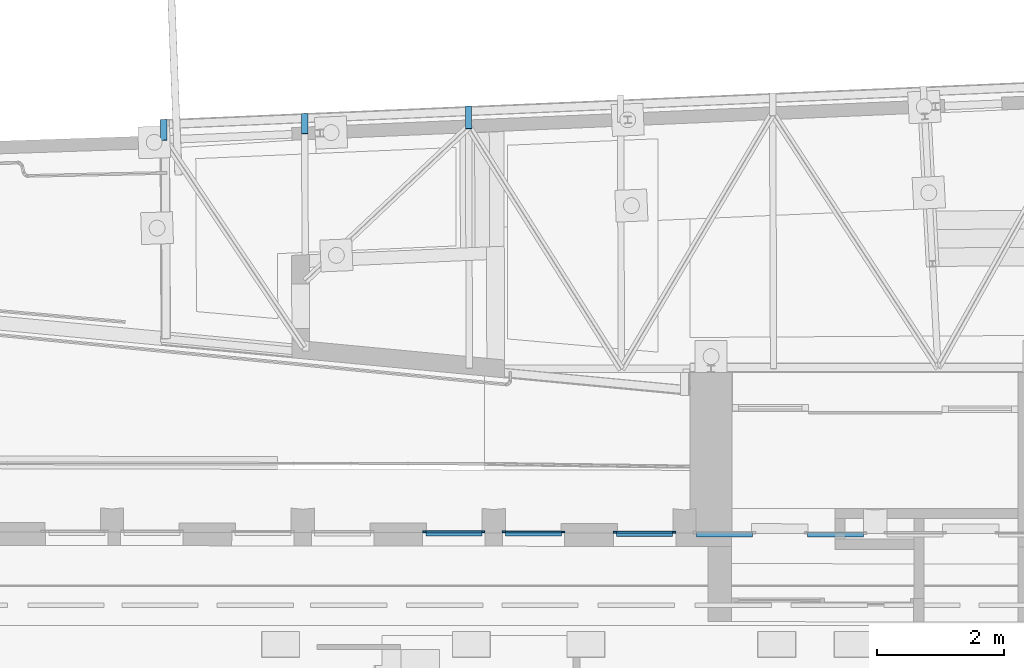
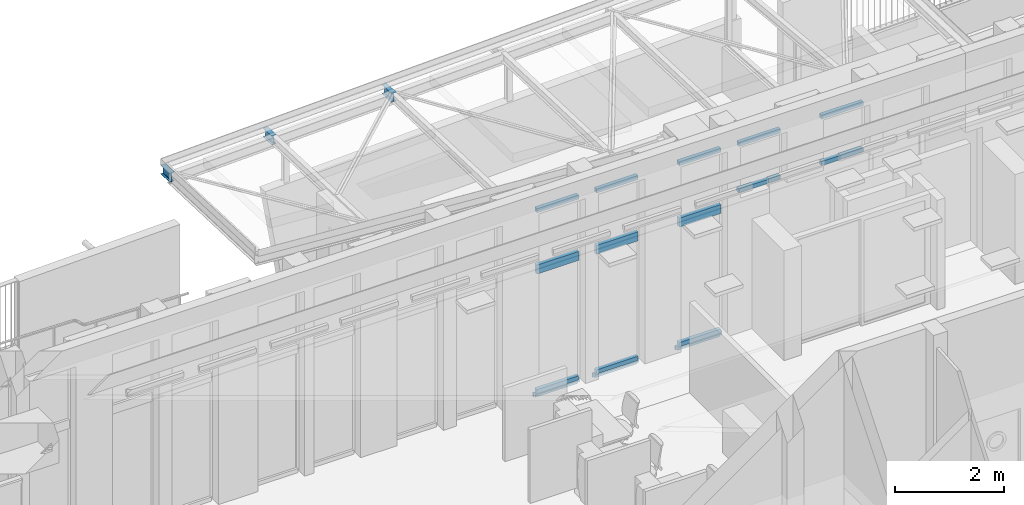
# One storey, part 17 of 128: 25 members, 3 beams, 8 elements without a shape of their own.
"""IFC2X3 building model written with IfcOpenShell, lengths in metres."""

from ifc_helpers import new_model, entity, si_unit, converted_unit, derived_unit, direction, frame, frame_2d, origin, origin_2d_with_axis, place, context, subcontext, project, spatial, rectangle, i_section, extrude, source, transform, mapped, material, type_object, type_shapes, element, aggregate, save


model = new_model("IFC2X3")

# Units and contexts
model_context = context("Model", 3, precision=1e-05, world=origin(), true_north=direction((6.123031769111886e-17, 1.0)))
body_context = subcontext(model_context, "Body", "Model", "MODEL_VIEW")
ifc_project = project(units=[si_unit("LENGTHUNIT", "METRE"), si_unit("AREAUNIT", "SQUARE_METRE"), converted_unit("PLANEANGLEUNIT", "DEGREE", entity("IfcPlaneAngleMeasure", 0.017453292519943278), si_unit("PLANEANGLEUNIT", "RADIAN"), dimensions=[0, 0, 0, 0, 0, 0, 0]), derived_unit("THERMALTRANSMITTANCEUNIT", [(si_unit("MASSUNIT", "GRAM", prefix="KILO"), 1), (si_unit("THERMODYNAMICTEMPERATUREUNIT", "KELVIN"), -1), (si_unit("TIMEUNIT", "SECOND"), -3)])], contexts=[model_context])

# Site, building, storey
site_placement = place(None, origin())
site = spatial("IfcSite", under=ifc_project, at=site_placement, Name="Default", CompositionType="ELEMENT")
building_placement = place(site_placement, origin())
building = spatial("IfcBuilding", under=site, at=building_placement, CompositionType="ELEMENT")
storey_placement = place(building_placement, origin())
storey = spatial("IfcBuildingStorey", under=building, at=storey_placement, Name="00_RDC CAF", CompositionType="ELEMENT", Elevation=2.4982504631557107e-13)

# Curtain wall, member
curtain_wall_type_1 = type_object("IfcCurtainWallType", Name="Mur-rideau:FRi.Ext.30mm RDC", PredefinedType="NOTDEFINED")
curtain_wall_1_placement = place(storey_placement, origin())
curtain_wall_1 = element("IfcCurtainWall", 1, at=curtain_wall_1_placement, inside=storey, type_object=curtain_wall_type_1, Name="Mur-rideau:FRi.Ext.30mm RDC", ObjectType="Mur-rideau:FRi.Ext.30mm RDC")
ifc_material_1 = material(Name="ARC - M.Ex - Blanc")
member_type_1 = type_object("IfcMemberType", Name="Meneau rectangulaire:F.Ri.M_Ext_Rectangulaire_200x80mm", PredefinedType="MULLION", material=ifc_material_1)
shared_shape_1 = source(origin(), body_context, "Body", "SweptSolid", [
    extrude(rectangle(XDim=0.2, YDim=0.07999999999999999, at=origin_2d_with_axis()), frame((0.0, 0.025, -0.8799999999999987), z_axis=(0.0, 0.0, 1.0), x_axis=(-1.0, 0.0, 0.0)), (0.0, 0.0, 1.0), 0.8799999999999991),
])
type_shapes(member_type_1, [shared_shape_1])
member_1_placement = place(curtain_wall_1_placement, frame((21.562391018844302, 144.16026276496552, 2.7689999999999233), z_axis=(1.0, 0.0, 0.0), x_axis=(0.0, 0.0, 1.0)))
member_1 = element("IfcMember", 2, at=member_1_placement, type_object=member_type_1, material=ifc_material_1, Name="Meneau rectangulaire:F.Ri.M_Ext_Rectangulaire_200x80mm", ObjectType="Meneau rectangulaire:F.Ri.M_Ext_Rectangulaire_200x80mm", context=body_context, shape_type="MappedRepresentation", body=[
    mapped(shared_shape_1, transform((0.0, 0.0, 0.0), scale=1.0)),
])

curtain_wall_2_placement = place(storey_placement, origin())
curtain_wall_2 = element("IfcCurtainWall", 3, at=curtain_wall_2_placement, inside=storey, type_object=curtain_wall_type_1, Name="Mur-rideau:FRi.Ext.30mm RDC", ObjectType="Mur-rideau:FRi.Ext.30mm RDC")
member_2_placement = place(curtain_wall_2_placement, frame((22.816012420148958, 144.1582912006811, 2.7689999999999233), z_axis=(1.0, 0.0, 0.0), x_axis=(0.0, 0.0, 1.0)))
member_2 = element("IfcMember", 4, at=member_2_placement, type_object=member_type_1, material=ifc_material_1, Name="Meneau rectangulaire:F.Ri.M_Ext_Rectangulaire_200x80mm", ObjectType="Meneau rectangulaire:F.Ri.M_Ext_Rectangulaire_200x80mm", context=body_context, shape_type="MappedRepresentation", body=[
    mapped(shared_shape_1, transform((0.0, 0.0, 0.0), scale=1.0)),
])

curtain_wall_3_placement = place(storey_placement, origin())
curtain_wall_3 = element("IfcCurtainWall", 5, at=curtain_wall_3_placement, inside=storey, type_object=curtain_wall_type_1, Name="Mur-rideau:FRi.Ext.30mm RDC", ObjectType="Mur-rideau:FRi.Ext.30mm RDC")
member_3_placement = place(curtain_wall_3_placement, frame((24.56238438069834, 144.15554468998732, 2.7689999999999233), z_axis=(1.0, 0.0, 0.0), x_axis=(0.0, 0.0, 1.0)))
member_3 = element("IfcMember", 6, at=member_3_placement, type_object=member_type_1, material=ifc_material_1, Name="Meneau rectangulaire:F.Ri.M_Ext_Rectangulaire_200x80mm", ObjectType="Meneau rectangulaire:F.Ri.M_Ext_Rectangulaire_200x80mm", context=body_context, shape_type="MappedRepresentation", body=[
    mapped(shared_shape_1, transform((0.0, 0.0, 0.0), scale=1.0)),
])

# Member
member_type_2 = type_object("IfcMemberType", Name="Meneau rectangulaire:F.Ri.M_Ext_Rectangulaire_90x80mm", PredefinedType="MULLION", material=ifc_material_1)
shared_shape_2 = source(origin(), body_context, "Body", "SweptSolid", [
    extrude(rectangle(XDim=0.09, YDim=0.07999999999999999, at=origin_2d_with_axis()), frame((-0.045, 0.025, -0.8799999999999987), z_axis=(0.0, 0.0, 1.0), x_axis=(-1.0, 0.0, 0.0)), (0.0, 0.0, 1.0), 0.8799999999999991),
])
type_shapes(member_type_2, [shared_shape_2])
member_4_placement = place(curtain_wall_1_placement, frame((21.562391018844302, 144.16026276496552, 4.127999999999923), z_axis=(1.0, 0.0, 0.0), x_axis=(0.0, 0.0, 1.0)))
member_4 = element("IfcMember", 7, at=member_4_placement, type_object=member_type_2, material=ifc_material_1, Name="Meneau rectangulaire:F.Ri.M_Ext_Rectangulaire_90x80mm", ObjectType="Meneau rectangulaire:F.Ri.M_Ext_Rectangulaire_90x80mm", context=body_context, shape_type="MappedRepresentation", body=[
    mapped(shared_shape_2, transform((0.0, 0.0, 0.0), scale=1.0)),
])

member_5_placement = place(curtain_wall_2_placement, frame((22.816012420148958, 144.1582912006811, 4.127999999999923), z_axis=(1.0, 0.0, 0.0), x_axis=(0.0, 0.0, 1.0)))
member_5 = element("IfcMember", 8, at=member_5_placement, type_object=member_type_2, material=ifc_material_1, Name="Meneau rectangulaire:F.Ri.M_Ext_Rectangulaire_90x80mm", ObjectType="Meneau rectangulaire:F.Ri.M_Ext_Rectangulaire_90x80mm", context=body_context, shape_type="MappedRepresentation", body=[
    mapped(shared_shape_2, transform((0.0, 0.0, 0.0), scale=1.0)),
])

member_6_placement = place(curtain_wall_3_placement, frame((24.56238438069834, 144.15554468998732, 4.127999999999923), z_axis=(1.0, 0.0, 0.0), x_axis=(0.0, 0.0, 1.0)))
member_6 = element("IfcMember", 9, at=member_6_placement, type_object=member_type_2, material=ifc_material_1, Name="Meneau rectangulaire:F.Ri.M_Ext_Rectangulaire_90x80mm", ObjectType="Meneau rectangulaire:F.Ri.M_Ext_Rectangulaire_90x80mm", context=body_context, shape_type="MappedRepresentation", body=[
    mapped(shared_shape_2, transform((0.0, 0.0, 0.0), scale=1.0)),
])

# Curtain wall, member
curtain_wall_4_placement = place(storey_placement, origin())
curtain_wall_4 = element("IfcCurtainWall", 10, at=curtain_wall_4_placement, inside=storey, type_object=curtain_wall_type_1, Name="Mur-rideau:FRi.Ext.30mm RDC", ObjectType="Mur-rideau:FRi.Ext.30mm RDC")
member_7_placement = place(curtain_wall_4_placement, frame((25.816005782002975, 144.1441369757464, 4.127999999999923), z_axis=(1.0, 0.0, 0.0), x_axis=(0.0, 0.0, 1.0)))
member_7 = element("IfcMember", 11, at=member_7_placement, type_object=member_type_2, material=ifc_material_1, Name="Meneau rectangulaire:F.Ri.M_Ext_Rectangulaire_90x80mm", ObjectType="Meneau rectangulaire:F.Ri.M_Ext_Rectangulaire_90x80mm", context=body_context, shape_type="MappedRepresentation", body=[
    mapped(shared_shape_2, transform((0.0, 0.0, 0.0), scale=1.0)),
])

curtain_wall_5_placement = place(storey_placement, origin())
curtain_wall_5 = element("IfcCurtainWall", 12, at=curtain_wall_5_placement, inside=storey, type_object=curtain_wall_type_1, Name="Mur-rideau:FRi.Ext.30mm RDC", ObjectType="Mur-rideau:FRi.Ext.30mm RDC")
member_8_placement = place(curtain_wall_5_placement, frame((27.56237774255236, 144.14139046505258, 4.127999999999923), z_axis=(1.0, 0.0, 0.0), x_axis=(0.0, 0.0, 1.0)))
member_8 = element("IfcMember", 13, at=member_8_placement, type_object=member_type_2, material=ifc_material_1, Name="Meneau rectangulaire:F.Ri.M_Ext_Rectangulaire_90x80mm", ObjectType="Meneau rectangulaire:F.Ri.M_Ext_Rectangulaire_90x80mm", context=body_context, shape_type="MappedRepresentation", body=[
    mapped(shared_shape_2, transform((0.0, 0.0, 0.0), scale=1.0)),
])

# Member
member_type_3 = type_object("IfcMemberType", Name="Meneau rectangulaire:F.Ri.M_Ext_Rectangulaire_90x80mm", PredefinedType="MULLION", material=ifc_material_1)
shared_shape_3 = source(origin(), body_context, "Body", "SweptSolid", [
    extrude(rectangle(XDim=0.09, YDim=0.07999999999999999, at=origin_2d_with_axis()), frame((-0.045, 0.025, -0.8799999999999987), z_axis=(0.0, 0.0, 1.0), x_axis=(-1.0, 0.0, 0.0)), (0.0, 0.0, 1.0), 0.8799999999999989),
])
type_shapes(member_type_3, [shared_shape_3])
member_9_placement = place(curtain_wall_1_placement, frame((20.682392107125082, 144.1616467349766, 0.0), z_axis=(-1.0, 0.0, 0.0), x_axis=(0.0, 0.0, -1.0)))
member_9 = element("IfcMember", 14, at=member_9_placement, type_object=member_type_3, material=ifc_material_1, Name="Meneau rectangulaire:F.Ri.M_Ext_Rectangulaire_90x80mm", ObjectType="Meneau rectangulaire:F.Ri.M_Ext_Rectangulaire_90x80mm", context=body_context, shape_type="MappedRepresentation", body=[
    mapped(shared_shape_3, transform((0.0, 0.0, 0.0), scale=1.0)),
])

aggregate(curtain_wall_1, [member_1, member_4, member_9])

member_10_placement = place(curtain_wall_2_placement, frame((21.936013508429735, 144.15967517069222, 0.0), z_axis=(-1.0, 0.0, 0.0), x_axis=(0.0, 0.0, -1.0)))
member_10 = element("IfcMember", 15, at=member_10_placement, type_object=member_type_3, material=ifc_material_1, Name="Meneau rectangulaire:F.Ri.M_Ext_Rectangulaire_90x80mm", ObjectType="Meneau rectangulaire:F.Ri.M_Ext_Rectangulaire_90x80mm", context=body_context, shape_type="MappedRepresentation", body=[
    mapped(shared_shape_3, transform((0.0, 0.0, 0.0), scale=1.0)),
])

aggregate(curtain_wall_2, [member_2, member_5, member_10])

member_11_placement = place(curtain_wall_3_placement, frame((23.682385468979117, 144.1569286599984, 0.0), z_axis=(-1.0, 0.0, 0.0), x_axis=(0.0, 0.0, -1.0)))
member_11 = element("IfcMember", 16, at=member_11_placement, type_object=member_type_3, material=ifc_material_1, Name="Meneau rectangulaire:F.Ri.M_Ext_Rectangulaire_90x80mm", ObjectType="Meneau rectangulaire:F.Ri.M_Ext_Rectangulaire_90x80mm", context=body_context, shape_type="MappedRepresentation", body=[
    mapped(shared_shape_3, transform((0.0, 0.0, 0.0), scale=1.0)),
])

aggregate(curtain_wall_3, [member_3, member_6, member_11])

member_12_placement = place(curtain_wall_4_placement, frame((24.93600687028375, 144.14552094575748, 3.0), z_axis=(-1.0, 0.0, 0.0), x_axis=(0.0, 0.0, -1.0)))
member_12 = element("IfcMember", 17, at=member_12_placement, type_object=member_type_3, material=ifc_material_1, Name="Meneau rectangulaire:F.Ri.M_Ext_Rectangulaire_90x80mm", ObjectType="Meneau rectangulaire:F.Ri.M_Ext_Rectangulaire_90x80mm", context=body_context, shape_type="MappedRepresentation", body=[
    mapped(shared_shape_3, transform((0.0, 0.0, 0.0), scale=1.0)),
])

aggregate(curtain_wall_4, [member_7, member_12])

member_13_placement = place(curtain_wall_5_placement, frame((26.682378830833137, 144.14277443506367, 3.0), z_axis=(-1.0, 0.0, 0.0), x_axis=(0.0, 0.0, -1.0)))
member_13 = element("IfcMember", 18, at=member_13_placement, type_object=member_type_3, material=ifc_material_1, Name="Meneau rectangulaire:F.Ri.M_Ext_Rectangulaire_90x80mm", ObjectType="Meneau rectangulaire:F.Ri.M_Ext_Rectangulaire_90x80mm", context=body_context, shape_type="MappedRepresentation", body=[
    mapped(shared_shape_3, transform((0.0, 0.0, 0.0), scale=1.0)),
])

aggregate(curtain_wall_5, [member_8, member_13])

# Curtain wall, members
curtain_wall_type_2 = type_object("IfcCurtainWallType", Name="Mur-rideau:FRi.Ext.30mm Etages", PredefinedType="NOTDEFINED")
curtain_wall_6_placement = place(storey_placement, origin())
curtain_wall_6 = element("IfcCurtainWall", 19, at=curtain_wall_6_placement, inside=storey, type_object=curtain_wall_type_2, Name="Mur-rideau:FRi.Ext.30mm Etages", ObjectType="Mur-rideau:FRi.Ext.30mm Etages")
member_type_4 = type_object("IfcMemberType", Name="Meneau rectangulaire:F.Ri.M_Ext_Rectangulaire_50x30mm", PredefinedType="MULLION", material=ifc_material_1)
shared_shape_4 = source(origin(), body_context, "Body", "SweptSolid", [
    extrude(rectangle(XDim=0.05, YDim=0.029999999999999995, at=origin_2d_with_axis()), frame((0.0, 0.0, -0.8800000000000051), z_axis=(0.0, 0.0, 1.0), x_axis=(-1.0, 0.0, 0.0)), (0.0, 0.0, 1.0), 0.8800000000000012),
])
type_shapes(member_type_4, [shared_shape_4])
member_14_placement = place(curtain_wall_6_placement, frame((22.81601242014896, 144.1582912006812, -0.087000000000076), z_axis=(1.0, 0.0, 0.0), x_axis=(0.0, 0.0, 1.0)))
member_14 = element("IfcMember", 20, at=member_14_placement, type_object=member_type_4, material=ifc_material_1, Name="Meneau rectangulaire:F.Ri.M_Ext_Rectangulaire_50x30mm", ObjectType="Meneau rectangulaire:F.Ri.M_Ext_Rectangulaire_50x30mm", context=body_context, shape_type="MappedRepresentation", body=[
    mapped(shared_shape_4, transform((0.0, 0.0, 0.0), scale=1.0)),
])
member_type_5 = type_object("IfcMemberType", Name="Meneau rectangulaire:F.Ri.M_Ext_Rectangulaire_50x30mm", PredefinedType="MULLION", material=ifc_material_1)
shared_shape_5 = source(origin(), body_context, "Body", "SweptSolid", [
    extrude(rectangle(XDim=0.05, YDim=0.03, at=origin_2d_with_axis()), frame((-0.025, 0.0, -0.8800000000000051), z_axis=(0.0, 0.0, 1.0), x_axis=(-1.0, 0.0, 0.0)), (0.0, 0.0, 1.0), 0.8800000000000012),
])
type_shapes(member_type_5, [shared_shape_5])
member_15_placement = place(curtain_wall_6_placement, frame((22.81601242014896, 144.1582912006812, 0.0), z_axis=(1.0, 0.0, 0.0), x_axis=(0.0, 0.0, 1.0)))
member_15 = element("IfcMember", 21, at=member_15_placement, type_object=member_type_5, material=ifc_material_1, Name="Meneau rectangulaire:F.Ri.M_Ext_Rectangulaire_50x30mm", ObjectType="Meneau rectangulaire:F.Ri.M_Ext_Rectangulaire_50x30mm", context=body_context, shape_type="MappedRepresentation", body=[
    mapped(shared_shape_5, transform((0.0, 0.0, 0.0), scale=1.0)),
])
member_type_6 = type_object("IfcMemberType", Name="Meneau rectangulaire:F.Ri.M_Ext_Rectangulaire_50x30mm", PredefinedType="MULLION", material=ifc_material_1)
shared_shape_6 = source(origin(), body_context, "Body", "SweptSolid", [
    extrude(rectangle(XDim=0.05, YDim=0.03, at=origin_2d_with_axis()), frame((-0.025, 0.0, -0.08700000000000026), z_axis=(0.0, 0.0, 1.0), x_axis=(-1.0, 0.0, 0.0)), (0.0, 0.0, 1.0), 0.08700000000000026),
])
type_shapes(member_type_6, [shared_shape_6])
member_16_placement = place(curtain_wall_6_placement, frame((22.866012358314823, 144.15821256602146, -0.087000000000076), z_axis=(0.0, 0.0, -1.0), x_axis=(1.0, 0.0, 0.0)))
member_16 = element("IfcMember", 22, at=member_16_placement, type_object=member_type_6, material=ifc_material_1, Name="Meneau rectangulaire:F.Ri.M_Ext_Rectangulaire_50x30mm", ObjectType="Meneau rectangulaire:F.Ri.M_Ext_Rectangulaire_50x30mm", context=body_context, shape_type="MappedRepresentation", body=[
    mapped(shared_shape_6, transform((0.0, 0.0, 0.0), scale=1.0)),
])
member_type_7 = type_object("IfcMemberType", Name="Meneau rectangulaire:F.Ri.M_Ext_Rectangulaire_50x30mm", PredefinedType="MULLION", material=ifc_material_1)
shared_shape_7 = source(origin(), body_context, "Body", "SweptSolid", [
    extrude(rectangle(XDim=0.05, YDim=0.03, at=origin_2d_with_axis()), frame((-0.025, 0.0, -0.08700000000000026), z_axis=(0.0, 0.0, 1.0), x_axis=(-1.0, 0.0, 0.0)), (0.0, 0.0, 1.0), 0.08700000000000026),
])
type_shapes(member_type_7, [shared_shape_7])
member_17_placement = place(curtain_wall_6_placement, frame((21.886013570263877, 144.159753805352, 0.0), z_axis=(0.0, 0.0, 1.0), x_axis=(-1.0, 0.0, 0.0)))
member_17 = element("IfcMember", 23, at=member_17_placement, type_object=member_type_7, material=ifc_material_1, Name="Meneau rectangulaire:F.Ri.M_Ext_Rectangulaire_50x30mm", ObjectType="Meneau rectangulaire:F.Ri.M_Ext_Rectangulaire_50x30mm", context=body_context, shape_type="MappedRepresentation", body=[
    mapped(shared_shape_7, transform((0.0, 0.0, 0.0), scale=1.0)),
])
aggregate(curtain_wall_6, [member_14, member_15, member_16, member_17])

# Curtain wall, member
curtain_wall_7_placement = place(storey_placement, origin())
curtain_wall_7 = element("IfcCurtainWall", 24, at=curtain_wall_7_placement, inside=storey, type_object=curtain_wall_type_2, Name="Mur-rideau:FRi.Ext.30mm Etages", ObjectType="Mur-rideau:FRi.Ext.30mm Etages")
member_type_8 = type_object("IfcMemberType", Name="Meneau rectangulaire:F.Ri.M_Ext_Rectangulaire_50x30mm", PredefinedType="MULLION", material=ifc_material_1)
shared_shape_8 = source(origin(), body_context, "Body", "SweptSolid", [
    extrude(rectangle(XDim=0.05, YDim=0.03, at=origin_2d_with_axis()), frame((0.0, 0.0, -0.8800000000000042), z_axis=(0.0, 0.0, 1.0), x_axis=(-1.0, 0.0, 0.0)), (0.0, 0.0, 1.0), 0.8800000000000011),
])
type_shapes(member_type_8, [shared_shape_8])
member_18_placement = place(curtain_wall_7_placement, frame((20.682366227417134, 144.16164677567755, -0.087000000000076), z_axis=(-1.0, 0.0, 0.0), x_axis=(0.0, 0.0, 1.0)))
member_18 = element("IfcMember", 25, at=member_18_placement, type_object=member_type_8, material=ifc_material_1, Name="Meneau rectangulaire:F.Ri.M_Ext_Rectangulaire_50x30mm", ObjectType="Meneau rectangulaire:F.Ri.M_Ext_Rectangulaire_50x30mm", context=body_context, shape_type="MappedRepresentation", body=[
    mapped(shared_shape_8, transform((0.0, 0.0, 0.0), scale=1.0)),
])

curtain_wall_8_placement = place(storey_placement, origin())
curtain_wall_8 = element("IfcCurtainWall", 26, at=curtain_wall_8_placement, inside=storey, type_object=curtain_wall_type_2, Name="Mur-rideau:FRi.Ext.30mm Etages", ObjectType="Mur-rideau:FRi.Ext.30mm Etages")
member_19_placement = place(curtain_wall_8_placement, frame((23.682359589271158, 144.15692870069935, -0.087000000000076), z_axis=(-1.0, 0.0, 0.0), x_axis=(0.0, 0.0, 1.0)))
member_19 = element("IfcMember", 27, at=member_19_placement, type_object=member_type_8, material=ifc_material_1, Name="Meneau rectangulaire:F.Ri.M_Ext_Rectangulaire_50x30mm", ObjectType="Meneau rectangulaire:F.Ri.M_Ext_Rectangulaire_50x30mm", context=body_context, shape_type="MappedRepresentation", body=[
    mapped(shared_shape_8, transform((0.0, 0.0, 0.0), scale=1.0)),
])

# Member
member_type_9 = type_object("IfcMemberType", Name="Meneau rectangulaire:F.Ri.M_Ext_Rectangulaire_50x30mm", PredefinedType="MULLION", material=ifc_material_1)
shared_shape_9 = source(origin(), body_context, "Body", "SweptSolid", [
    extrude(rectangle(XDim=0.05, YDim=0.03, at=origin_2d_with_axis()), frame((-0.025, 0.0, -0.8800000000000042), z_axis=(0.0, 0.0, 1.0), x_axis=(-1.0, 0.0, 0.0)), (0.0, 0.0, 1.0), 0.8800000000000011),
])
type_shapes(member_type_9, [shared_shape_9])
member_20_placement = place(curtain_wall_7_placement, frame((20.682366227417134, 144.16164677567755, 0.0), z_axis=(-1.0, 0.0, 0.0), x_axis=(0.0, 0.0, 1.0)))
member_20 = element("IfcMember", 28, at=member_20_placement, type_object=member_type_9, material=ifc_material_1, Name="Meneau rectangulaire:F.Ri.M_Ext_Rectangulaire_50x30mm", ObjectType="Meneau rectangulaire:F.Ri.M_Ext_Rectangulaire_50x30mm", context=body_context, shape_type="MappedRepresentation", body=[
    mapped(shared_shape_9, transform((0.0, 0.0, 0.0), scale=1.0)),
])

member_21_placement = place(curtain_wall_8_placement, frame((23.682359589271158, 144.15692870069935, 0.0), z_axis=(-1.0, 0.0, 0.0), x_axis=(0.0, 0.0, 1.0)))
member_21 = element("IfcMember", 29, at=member_21_placement, type_object=member_type_9, material=ifc_material_1, Name="Meneau rectangulaire:F.Ri.M_Ext_Rectangulaire_50x30mm", ObjectType="Meneau rectangulaire:F.Ri.M_Ext_Rectangulaire_50x30mm", context=body_context, shape_type="MappedRepresentation", body=[
    mapped(shared_shape_9, transform((0.0, 0.0, 0.0), scale=1.0)),
])

member_type_10 = type_object("IfcMemberType", Name="Meneau rectangulaire:F.Ri.M_Ext_Rectangulaire_50x30mm", PredefinedType="MULLION", material=ifc_material_1)
shared_shape_10 = source(origin(), body_context, "Body", "SweptSolid", [
    extrude(rectangle(XDim=0.05, YDim=0.03, at=origin_2d_with_axis()), frame((-0.025, 0.0, -0.08700000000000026), z_axis=(0.0, 0.0, 1.0), x_axis=(-1.0, 0.0, 0.0)), (0.0, 0.0, 1.0), 0.08700000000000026),
])
type_shapes(member_type_10, [shared_shape_10])
member_22_placement = place(curtain_wall_7_placement, frame((20.63236628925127, 144.16172541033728, -0.087000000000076), z_axis=(0.0, 0.0, -1.0), x_axis=(-1.0, 0.0, 0.0)))
member_22 = element("IfcMember", 30, at=member_22_placement, type_object=member_type_10, material=ifc_material_1, Name="Meneau rectangulaire:F.Ri.M_Ext_Rectangulaire_50x30mm", ObjectType="Meneau rectangulaire:F.Ri.M_Ext_Rectangulaire_50x30mm", context=body_context, shape_type="MappedRepresentation", body=[
    mapped(shared_shape_10, transform((0.0, 0.0, 0.0), scale=1.0)),
])

member_23_placement = place(curtain_wall_8_placement, frame((23.632359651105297, 144.15700733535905, -0.087000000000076), z_axis=(0.0, 0.0, -1.0), x_axis=(-1.0, 0.0, 0.0)))
member_23 = element("IfcMember", 31, at=member_23_placement, type_object=member_type_10, material=ifc_material_1, Name="Meneau rectangulaire:F.Ri.M_Ext_Rectangulaire_50x30mm", ObjectType="Meneau rectangulaire:F.Ri.M_Ext_Rectangulaire_50x30mm", context=body_context, shape_type="MappedRepresentation", body=[
    mapped(shared_shape_10, transform((0.0, 0.0, 0.0), scale=1.0)),
])

member_type_11 = type_object("IfcMemberType", Name="Meneau rectangulaire:F.Ri.M_Ext_Rectangulaire_50x30mm", PredefinedType="MULLION", material=ifc_material_1)
shared_shape_11 = source(origin(), body_context, "Body", "SweptSolid", [
    extrude(rectangle(XDim=0.05, YDim=0.03, at=origin_2d_with_axis()), frame((-0.025, 0.0, -0.08700000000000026), z_axis=(0.0, 0.0, 1.0), x_axis=(-1.0, 0.0, 0.0)), (0.0, 0.0, 1.0), 0.08700000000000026),
])
type_shapes(member_type_11, [shared_shape_11])
member_24_placement = place(curtain_wall_7_placement, frame((21.61236507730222, 144.16018417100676, 0.0)))
member_24 = element("IfcMember", 32, at=member_24_placement, type_object=member_type_11, material=ifc_material_1, Name="Meneau rectangulaire:F.Ri.M_Ext_Rectangulaire_50x30mm", ObjectType="Meneau rectangulaire:F.Ri.M_Ext_Rectangulaire_50x30mm", context=body_context, shape_type="MappedRepresentation", body=[
    mapped(shared_shape_11, transform((0.0, 0.0, 0.0), scale=1.0)),
])

aggregate(curtain_wall_7, [member_18, member_20, member_22, member_24])

member_25_placement = place(curtain_wall_8_placement, frame((24.612358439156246, 144.15546609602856, 0.0)))
member_25 = element("IfcMember", 33, at=member_25_placement, type_object=member_type_11, material=ifc_material_1, Name="Meneau rectangulaire:F.Ri.M_Ext_Rectangulaire_50x30mm", ObjectType="Meneau rectangulaire:F.Ri.M_Ext_Rectangulaire_50x30mm", context=body_context, shape_type="MappedRepresentation", body=[
    mapped(shared_shape_11, transform((0.0, 0.0, 0.0), scale=1.0)),
])

aggregate(curtain_wall_8, [member_19, member_21, member_23, member_25])

# Beams
ifc_material_2 = material(Name="Acier structurel - S235")
beam_type = type_object("IfcBeamType", Name="IPE:IPE200", PredefinedType="BEAM")
beam_1_placement = place(storey_placement, frame((16.564857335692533, 150.2896262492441, 2.607608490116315), z_axis=(-0.0001438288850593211, 0.03098077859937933, 0.9995199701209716), x_axis=(-0.004640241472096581, 0.9995091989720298, -0.03098111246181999)))
element("IfcBeam", 34, at=beam_1_placement, inside=storey, type_object=beam_type, material=ifc_material_2, Name="IPE:IPE200", ObjectType="IPE:IPE200", context=body_context, shape_type="SweptSolid", body=[
    extrude(i_section(OverallWidth=0.1000000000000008, OverallDepth=0.2000000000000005, WebThickness=0.005600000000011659, FlangeThickness=0.008500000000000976, FilletRadius=0.011999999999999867, at=frame_2d((4.0245584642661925e-16, 3.247402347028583e-15), x_axis=(0.0, 1.0))), frame((0.027014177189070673, 0.0, -0.1000000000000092), z_axis=(1.0, 0.0, 0.0), x_axis=(0.0, 0.0, -1.0)), (0.0, 0.0, 1.0), 0.32870638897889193),
])
beam_2_placement = place(storey_placement, frame((18.778366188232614, 150.41707231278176, 2.6036533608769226), z_axis=(-0.00014384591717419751, 0.030984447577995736, 0.9995198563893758), x_axis=(-0.004640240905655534, 0.9995090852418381, -0.03098478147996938)))
element("IfcBeam", 35, at=beam_2_placement, inside=storey, type_object=beam_type, material=ifc_material_2, Name="IPE:IPE200", ObjectType="IPE:IPE200", context=body_context, shape_type="SweptSolid", body=[
    extrude(i_section(OverallWidth=0.10000000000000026, OverallDepth=0.2000000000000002, WebThickness=0.005599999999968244, FlangeThickness=0.00850000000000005, FilletRadius=0.012000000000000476, at=frame_2d((-1.3530843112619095e-15, 1.0859368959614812e-15), x_axis=(0.0, 1.0))), frame((0.0035469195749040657, 0.0, -0.10000000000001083), z_axis=(1.0, 0.0, 0.0), x_axis=(0.0, 0.0, -1.0)), (0.0, 0.0, 1.0), 0.3200998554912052),
])
beam_3_placement = place(storey_placement, frame((21.35522845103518, 150.49612589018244, 2.6011752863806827), z_axis=(-0.0001440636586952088, 0.031031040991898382, 0.9995184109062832), x_axis=(-0.004640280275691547, 0.999507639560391, -0.031031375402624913)))
element("IfcBeam", 36, at=beam_3_placement, inside=storey, type_object=beam_type, material=ifc_material_2, Name="IPE:IPE200", ObjectType="IPE:IPE200", context=body_context, shape_type="SweptSolid", body=[
    extrude(i_section(OverallWidth=0.09999999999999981, OverallDepth=0.20000000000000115, WebThickness=0.005600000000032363, FlangeThickness=0.008500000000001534, FilletRadius=0.012000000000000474, at=frame_2d((1.4849232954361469e-15, -2.123301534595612e-15), x_axis=(0.0, 1.0))), frame((0.0035090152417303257, 0.0, -0.1000000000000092), z_axis=(1.0, 0.0, 0.0), x_axis=(0.0, 0.0, -1.0)), (0.0, 0.0, 1.0), 0.3521998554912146),
])

save(model, "model.ifc")
